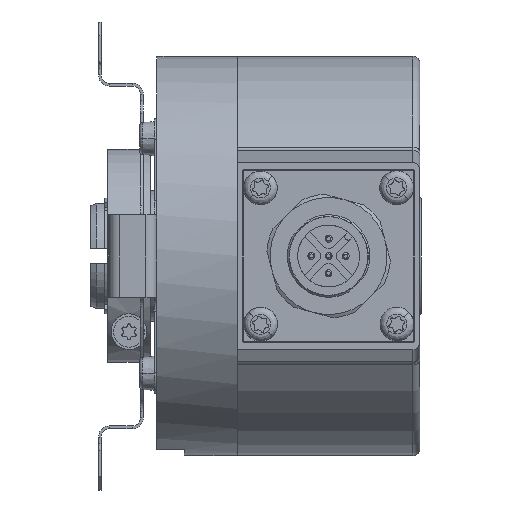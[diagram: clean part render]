
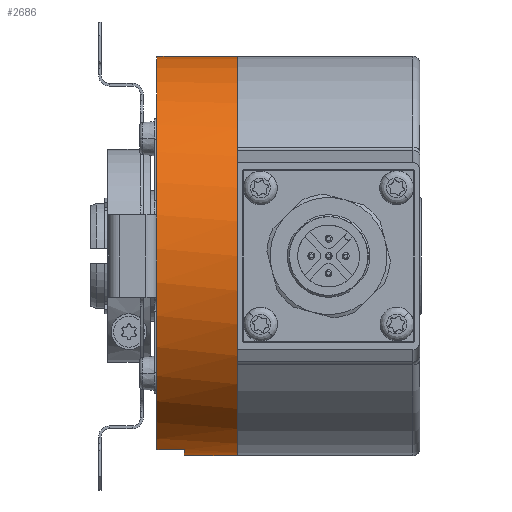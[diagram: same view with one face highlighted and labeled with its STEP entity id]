
A CAD part, front view. The second image highlights one B-rep face of the part: STEP entity #2686.
In plain terms, the highlighted cylindrical face has radius 29 mm (diameter 58 mm), a partial arc.
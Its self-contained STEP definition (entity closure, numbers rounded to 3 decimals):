
#188 = ORIENTED_EDGE ( 'NONE', *, *, #11228, .F. ) ;
#767 = DIRECTION ( 'NONE',  ( 1., 0., 0. ) ) ;
#1714 = CIRCLE ( 'NONE', #4890, 29. ) ;
#1722 = VECTOR ( 'NONE', #767, 1000. ) ;
#1788 = CARTESIAN_POINT ( 'NONE',  ( -3.622, 18.423, -28.142 ) ) ;
#2686 = ADVANCED_FACE ( 'NONE', ( #11107 ), #5218, .T. ) ;
#3200 = VERTEX_POINT ( 'NONE', #16136 ) ;
#3547 = CARTESIAN_POINT ( 'NONE',  ( -3.622, 25.423, 0. ) ) ;
#3689 = CARTESIAN_POINT ( 'NONE',  ( 8.068, 18.423, -28.142 ) ) ;
#4147 = DIRECTION ( 'NONE',  ( 0., 0., -1. ) ) ;
#4890 = AXIS2_PLACEMENT_3D ( 'NONE', #17766, #18014, #13796 ) ;
#5218 = CYLINDRICAL_SURFACE ( 'NONE', #15368, 29. ) ;
#5286 = DIRECTION ( 'NONE',  ( 1., 0., 0. ) ) ;
#5527 = DIRECTION ( 'NONE',  ( 1., 0., 0. ) ) ;
#5595 = CARTESIAN_POINT ( 'NONE',  ( 8.068, 25.423, 29. ) ) ;
#5873 = AXIS2_PLACEMENT_3D ( 'NONE', #3547, #5527, #7262 ) ;
#6578 = EDGE_CURVE ( 'NONE', #19541, #3200, #7625, .T. ) ;
#7262 = DIRECTION ( 'NONE',  ( 0., 0., -1. ) ) ;
#7604 = EDGE_LOOP ( 'NONE', ( #188, #13959, #8324, #8853, #23042, #16172 ) ) ;
#7621 = DIRECTION ( 'NONE',  ( 1., 0., 0. ) ) ;
#7625 = LINE ( 'NONE', #16974, #24256 ) ;
#8113 = VERTEX_POINT ( 'NONE', #8599 ) ;
#8324 = ORIENTED_EDGE ( 'NONE', *, *, #23606, .F. ) ;
#8599 = CARTESIAN_POINT ( 'NONE',  ( 0.378, 18.423, -28.142 ) ) ;
#8853 = ORIENTED_EDGE ( 'NONE', *, *, #14732, .T. ) ;
#10753 = DIRECTION ( 'NONE',  ( 1., 0., 0. ) ) ;
#10876 = AXIS2_PLACEMENT_3D ( 'NONE', #20820, #7621, #4147 ) ;
#11107 = FACE_OUTER_BOUND ( 'NONE', #7604, .T. ) ;
#11228 = EDGE_CURVE ( 'NONE', #14360, #21479, #11624, .T. ) ;
#11624 = LINE ( 'NONE', #13952, #1722 ) ;
#12169 = VERTEX_POINT ( 'NONE', #1788 ) ;
#13796 = DIRECTION ( 'NONE',  ( 0., 0., 1. ) ) ;
#13952 = CARTESIAN_POINT ( 'NONE',  ( 8.068, 25.423, 29. ) ) ;
#13959 = ORIENTED_EDGE ( 'NONE', *, *, #15205, .T. ) ;
#14230 = EDGE_CURVE ( 'NONE', #21479, #3200, #18367, .T. ) ;
#14360 = VERTEX_POINT ( 'NONE', #15708 ) ;
#14441 = CARTESIAN_POINT ( 'NONE',  ( 8.068, 25.423, 0. ) ) ;
#14732 = EDGE_CURVE ( 'NONE', #8113, #19541, #1714, .T. ) ;
#15205 = EDGE_CURVE ( 'NONE', #14360, #12169, #15678, .T. ) ;
#15368 = AXIS2_PLACEMENT_3D ( 'NONE', #14441, #10753, #22005 ) ;
#15678 = CIRCLE ( 'NONE', #5873, 29. ) ;
#15708 = CARTESIAN_POINT ( 'NONE',  ( -3.622, 25.423, 29. ) ) ;
#16136 = CARTESIAN_POINT ( 'NONE',  ( 8.068, 25.423, -29. ) ) ;
#16172 = ORIENTED_EDGE ( 'NONE', *, *, #14230, .F. ) ;
#16974 = CARTESIAN_POINT ( 'NONE',  ( 8.068, 25.423, -29. ) ) ;
#17766 = CARTESIAN_POINT ( 'NONE',  ( 0.378, 25.423, 0. ) ) ;
#18014 = DIRECTION ( 'NONE',  ( 1., 0., 0. ) ) ;
#18113 = CARTESIAN_POINT ( 'NONE',  ( 0.378, 25.423, -29. ) ) ;
#18367 = CIRCLE ( 'NONE', #10876, 29. ) ;
#19541 = VERTEX_POINT ( 'NONE', #18113 ) ;
#20353 = VECTOR ( 'NONE', #22814, 1000. ) ;
#20820 = CARTESIAN_POINT ( 'NONE',  ( 8.068, 25.423, 0. ) ) ;
#20957 = LINE ( 'NONE', #3689, #20353 ) ;
#21479 = VERTEX_POINT ( 'NONE', #5595 ) ;
#22005 = DIRECTION ( 'NONE',  ( 0., 0., -1. ) ) ;
#22814 = DIRECTION ( 'NONE',  ( -1., 0., 0. ) ) ;
#23042 = ORIENTED_EDGE ( 'NONE', *, *, #6578, .T. ) ;
#23606 = EDGE_CURVE ( 'NONE', #8113, #12169, #20957, .T. ) ;
#24256 = VECTOR ( 'NONE', #5286, 1000. ) ;
